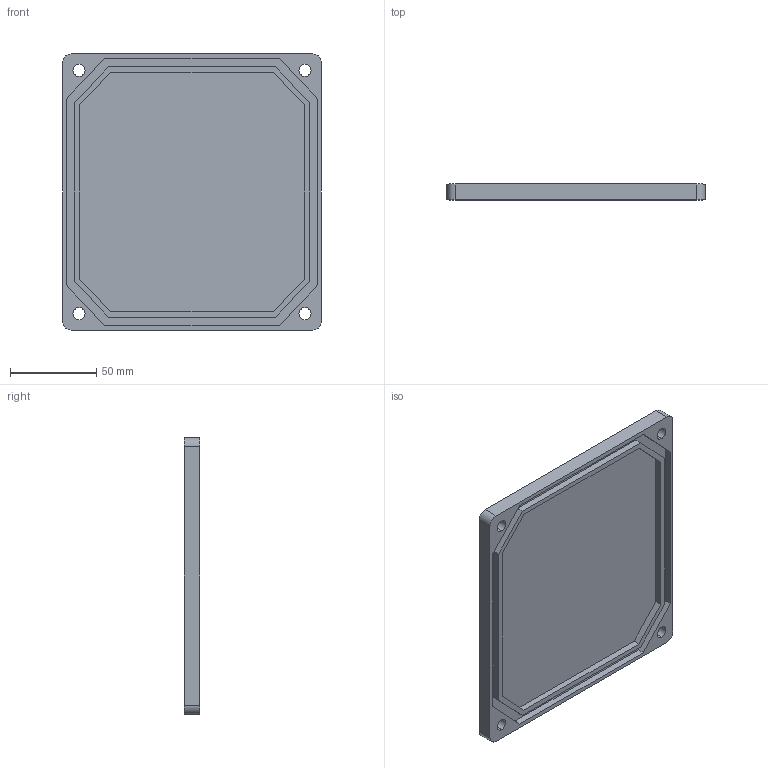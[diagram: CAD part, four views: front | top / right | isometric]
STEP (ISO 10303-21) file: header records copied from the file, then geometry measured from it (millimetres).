
FILE_DESCRIPTION (( 'STEP AP203' ), '1' );
FILE_NAME ('160諉盄碟裔.STEP', '2023-02-21T10:21:57', ( '' ), ( '' ), 'SwSTEP 2.0', 'SolidWorks 2018', '' );
FILE_SCHEMA (( 'CONFIG_CONTROL_DESIGN' ));
Length unit declared in the file: millimetre
Products named in the file (1): 160諉盄碟裔
Bounding box: 150 x 9 x 160 mm (x, y, z)
Volume: 133163 mm3; surface area: 60395.4 mm2
Topology: 1 solids, 1 shells, 57 faces, 144 edges, 96 vertices
Faces by surface type: plane 37, cylinder 20
Entity records: 1811 total; most frequent: DIRECTION 300, CARTESIAN_POINT 298, ORIENTED_EDGE 288, EDGE_CURVE 144, LINE 104, VECTOR 104, AXIS2_PLACEMENT_3D 98, VERTEX_POINT 96
